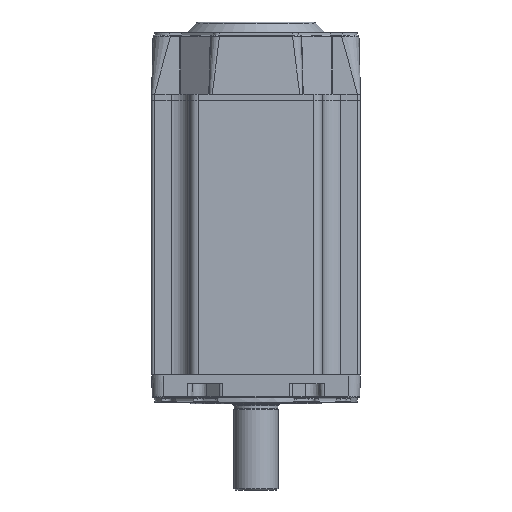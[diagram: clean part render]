
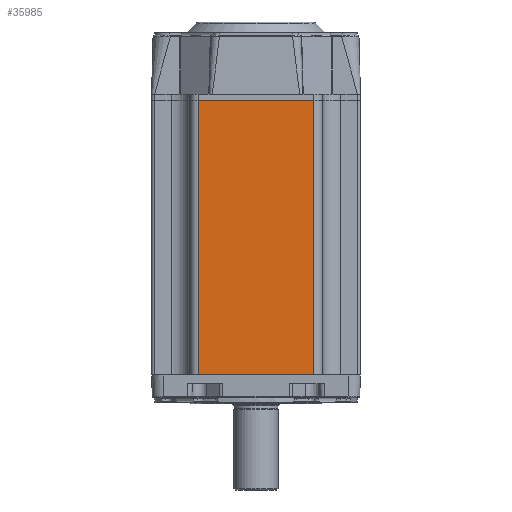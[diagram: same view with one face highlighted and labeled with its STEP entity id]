
A CAD part, front view. The second image highlights one B-rep face of the part: STEP entity #35985.
In plain terms, the highlighted planar face has unit normal (0, -1, 0).
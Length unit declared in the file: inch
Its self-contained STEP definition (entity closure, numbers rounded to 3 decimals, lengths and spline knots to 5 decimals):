
#33782=CARTESIAN_POINT('',(1.2275,-2.225,-5.84));
#33783=VERTEX_POINT('',#33782);
#33790=CARTESIAN_POINT('',(-1.2275,-2.225,-5.84));
#33791=VERTEX_POINT('',#33790);
#33792=CARTESIAN_POINT('',(-1.2275,-2.225,-5.84));
#33793=DIRECTION('',(1.0,0.0,0.0));
#33794=VECTOR('',#33793,2.455);
#33795=LINE('',#33792,#33794);
#33796=EDGE_CURVE('',#33791,#33783,#33795,.T.);
#35902=CARTESIAN_POINT('',(1.2275,-2.225,0.));
#35903=VERTEX_POINT('',#35902);
#35911=CARTESIAN_POINT('',(1.2275,-2.225,0.));
#35912=DIRECTION('',(0.0,0.0,-1.0));
#35913=VECTOR('',#35912,5.84);
#35914=LINE('',#35911,#35913);
#35915=EDGE_CURVE('',#35903,#33783,#35914,.T.);
#35962=CARTESIAN_POINT('',(1.415,-2.225,0.0));
#35963=DIRECTION('',(0.0,-1.0,0.0));
#35964=DIRECTION('',(0.0,0.0,-1.0));
#35965=AXIS2_PLACEMENT_3D('',#35962,#35963,#35964);
#35966=PLANE('',#35965);
#35967=CARTESIAN_POINT('',(-1.2275,-2.225,0.));
#35968=VERTEX_POINT('',#35967);
#35969=CARTESIAN_POINT('',(1.2275,-2.225,0.));
#35970=DIRECTION('',(-1.0,0.0,0.0));
#35971=VECTOR('',#35970,2.455);
#35972=LINE('',#35969,#35971);
#35973=EDGE_CURVE('',#35903,#35968,#35972,.T.);
#35974=ORIENTED_EDGE('',*,*,#35973,.T.);
#35975=CARTESIAN_POINT('',(-1.2275,-2.225,-5.84));
#35976=DIRECTION('',(0.0,0.0,1.0));
#35977=VECTOR('',#35976,5.84);
#35978=LINE('',#35975,#35977);
#35979=EDGE_CURVE('',#33791,#35968,#35978,.T.);
#35980=ORIENTED_EDGE('',*,*,#35979,.F.);
#35981=ORIENTED_EDGE('',*,*,#33796,.T.);
#35982=ORIENTED_EDGE('',*,*,#35915,.F.);
#35983=EDGE_LOOP('',(#35974,#35980,#35981,#35982));
#35984=FACE_OUTER_BOUND('',#35983,.T.);
#35985=ADVANCED_FACE('',(#35984),#35966,.T.);
